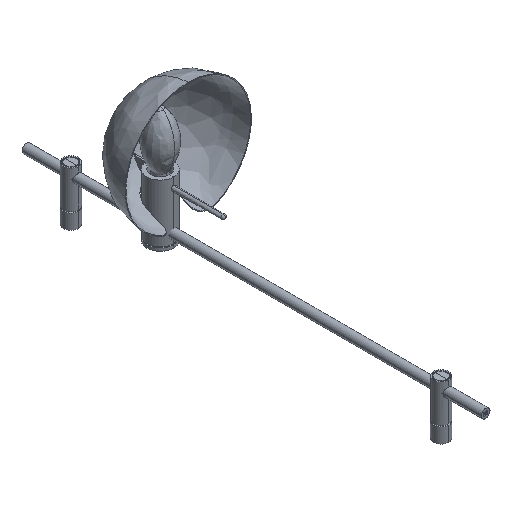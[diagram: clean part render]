
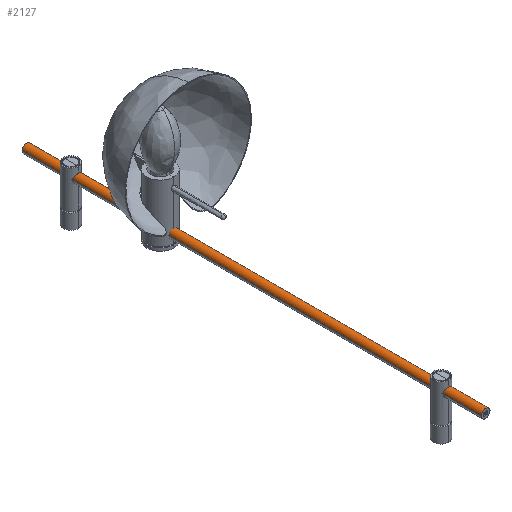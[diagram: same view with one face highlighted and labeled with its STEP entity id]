
A CAD part, isometric view. The second image highlights one B-rep face of the part: STEP entity #2127.
In plain terms, the highlighted cylindrical face has radius 5.7 mm (diameter 11.4 mm), a partial arc.
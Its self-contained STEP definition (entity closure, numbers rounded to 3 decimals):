
#84=CYLINDRICAL_SURFACE('',#2301,5.7);
#305=LINE('',#3856,#469);
#306=LINE('',#3859,#470);
#469=VECTOR('',#2692,304.8);
#470=VECTOR('',#2695,304.8);
#637=FACE_OUTER_BOUND('',#768,.T.);
#768=EDGE_LOOP('',(#1727,#1728,#1729,#1730));
#886=CIRCLE('',#2302,5.7);
#887=CIRCLE('',#2303,5.7);
#1023=VERTEX_POINT('',#3852);
#1024=VERTEX_POINT('',#3853);
#1025=VERTEX_POINT('',#3855);
#1026=VERTEX_POINT('',#3857);
#1280=EDGE_CURVE('',#1025,#1023,#305,.T.);
#1282=EDGE_CURVE('',#1024,#1026,#306,.T.);
#1283=EDGE_CURVE('',#1024,#1023,#886,.T.);
#1284=EDGE_CURVE('',#1025,#1026,#887,.T.);
#1727=ORIENTED_EDGE('',*,*,#1283,.F.);
#1728=ORIENTED_EDGE('',*,*,#1282,.T.);
#1729=ORIENTED_EDGE('',*,*,#1284,.F.);
#1730=ORIENTED_EDGE('',*,*,#1280,.T.);
#2127=ADVANCED_FACE('',(#637),#84,.T.);
#2301=AXIS2_PLACEMENT_3D('',#3860,#2696,#2697);
#2302=AXIS2_PLACEMENT_3D('',#3861,#2698,#2699);
#2303=AXIS2_PLACEMENT_3D('',#3862,#2700,#2701);
#2692=DIRECTION('',(0.,-1.,0.));
#2695=DIRECTION('',(0.,1.,0.));
#2696=DIRECTION('center_axis',(0.,-1.,0.));
#2697=DIRECTION('ref_axis',(-1.,0.,0.));
#2698=DIRECTION('center_axis',(0.,-1.,0.));
#2699=DIRECTION('ref_axis',(-1.,0.,0.));
#2700=DIRECTION('center_axis',(0.,1.,0.));
#2701=DIRECTION('ref_axis',(-1.,0.,0.));
#3852=CARTESIAN_POINT('',(-5.7,-300.935,56.65));
#3853=CARTESIAN_POINT('',(5.7,-300.935,56.65));
#3855=CARTESIAN_POINT('',(-5.7,299.065,56.65));
#3856=CARTESIAN_POINT('',(-5.7,299.065,56.65));
#3857=CARTESIAN_POINT('',(5.7,299.065,56.65));
#3859=CARTESIAN_POINT('',(5.7,-300.935,56.65));
#3860=CARTESIAN_POINT('Origin',(0.,299.065,56.65));
#3861=CARTESIAN_POINT('Origin',(0.,-300.935,56.65));
#3862=CARTESIAN_POINT('Origin',(0.,299.065,56.65));
